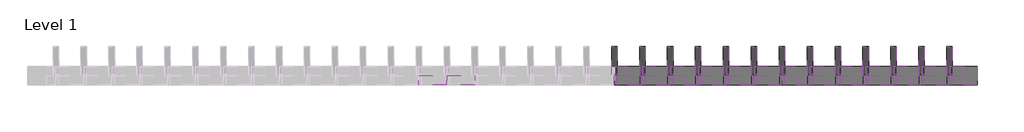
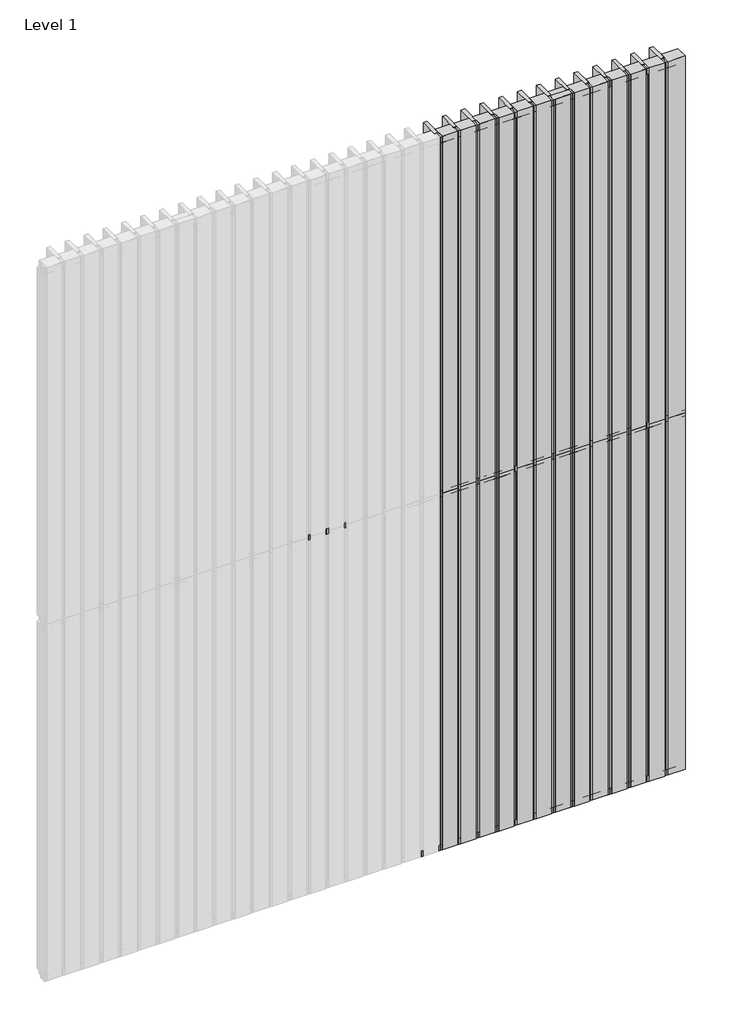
# One storey, part 3 of 3: 68 members, 52 plates.
"""IFC4 building model written with IfcOpenShell, lengths in millimetres."""

from ifc_helpers import new_model, si_unit, origin, place, context, project, spatial, transform, mapped, element, save
from components import rectangular_mullion_4e9be6f4, rectangular_mullion_64cc6fdd, rectangular_mullion_6265e8b1, rectangular_mullion_eb4a5411, empty_system_panel_empty_a223c933, empty_system_panel_empty_cb8e8c2e, empty_system_panel_empty_64907904

model = new_model("IFC4")

# Units and contexts
model_context = context("Model", 3, world=origin())
ifc_project = project(units=[si_unit("LENGTHUNIT", "METRE", prefix="MILLI")], contexts=[model_context])

# Site, building, storey
site = spatial("IfcSite", under=ifc_project)
building = spatial("IfcBuilding", under=site)
storey = spatial("IfcBuildingStorey", under=building, Name="Level 1", Elevation=0.0)

# Members
placement = place(None, origin())
rectangular_mullion_shape = rectangular_mullion_4e9be6f4(model_context)
element("IfcMember", 1, ObjectType="Rectangular Mullion : RSen_21_CWM_blade - cubic 150 - 0°_gen_duco projects", at=placement, inside=storey, context=model_context, shape_type="MappedRepresentation", body=[
    mapped(rectangular_mullion_shape, transform((5850.0, 3000.0, 0.0), x_axis=(-1.0, 0.0, 0.0), y_axis=(0.0, 1.0, 0.0), z_axis=(0.0, 0.0, -1.0))),
])
element("IfcMember", 2, ObjectType="Rectangular Mullion : RSen_21_CWM_blade - cubic 150 - 0°_gen_duco projects", at=placement, inside=storey, context=model_context, shape_type="MappedRepresentation", body=[
    mapped(rectangular_mullion_shape, transform((5700.0, 3000.0, 0.0), x_axis=(-1.0, 0.0, 0.0), y_axis=(0.0, 1.0, 0.0), z_axis=(0.0, 0.0, -1.0))),
])
element("IfcMember", 3, ObjectType="Rectangular Mullion : RSen_21_CWM_blade - cubic 150 - 0°_gen_duco projects", at=placement, inside=storey, context=model_context, shape_type="MappedRepresentation", body=[
    mapped(rectangular_mullion_shape, transform((5550.0, 3000.0, 0.0), x_axis=(-1.0, 0.0, 0.0), y_axis=(0.0, 1.0, 0.0), z_axis=(0.0, 0.0, -1.0))),
])
element("IfcMember", 4, ObjectType="Rectangular Mullion : RSen_21_CWM_blade - cubic 150 - 0°_gen_duco projects", at=placement, inside=storey, context=model_context, shape_type="MappedRepresentation", body=[
    mapped(rectangular_mullion_shape, transform((5400.0, 3000.0, 0.0), x_axis=(-1.0, 0.0, 0.0), y_axis=(0.0, 1.0, 0.0), z_axis=(0.0, 0.0, -1.0))),
])
element("IfcMember", 5, ObjectType="Rectangular Mullion : RSen_21_CWM_blade - cubic 150 - 0°_gen_duco projects", at=placement, inside=storey, context=model_context, shape_type="MappedRepresentation", body=[
    mapped(rectangular_mullion_shape, transform((5250.0, 3000.0, 0.0), x_axis=(-1.0, 0.0, 0.0), y_axis=(0.0, 1.0, 0.0), z_axis=(0.0, 0.0, -1.0))),
])
element("IfcMember", 6, ObjectType="Rectangular Mullion : RSen_21_CWM_blade - cubic 150 - 0°_gen_duco projects", at=placement, inside=storey, context=model_context, shape_type="MappedRepresentation", body=[
    mapped(rectangular_mullion_shape, transform((5100.0, 3000.0, 0.0), x_axis=(-1.0, 0.0, 0.0), y_axis=(0.0, 1.0, 0.0), z_axis=(0.0, 0.0, -1.0))),
])
element("IfcMember", 7, ObjectType="Rectangular Mullion : RSen_21_CWM_blade - cubic 150 - 0°_gen_duco projects", at=placement, inside=storey, context=model_context, shape_type="MappedRepresentation", body=[
    mapped(rectangular_mullion_shape, transform((4950.0, 3000.0, 0.0), x_axis=(-1.0, 0.0, 0.0), y_axis=(0.0, 1.0, 0.0), z_axis=(0.0, 0.0, -1.0))),
])
element("IfcMember", 8, ObjectType="Rectangular Mullion : RSen_21_CWM_blade - cubic 150 - 0°_gen_duco projects", at=placement, inside=storey, context=model_context, shape_type="MappedRepresentation", body=[
    mapped(rectangular_mullion_shape, transform((4800.0, 3000.0, 0.0), x_axis=(-1.0, 0.0, 0.0), y_axis=(0.0, 1.0, 0.0), z_axis=(0.0, 0.0, -1.0))),
])
element("IfcMember", 9, ObjectType="Rectangular Mullion : RSen_21_CWM_blade - cubic 150 - 0°_gen_duco projects", at=placement, inside=storey, context=model_context, shape_type="MappedRepresentation", body=[
    mapped(rectangular_mullion_shape, transform((4650.0, 3000.0, 0.0), x_axis=(-1.0, 0.0, 0.0), y_axis=(0.0, 1.0, 0.0), z_axis=(0.0, 0.0, -1.0))),
])
element("IfcMember", 10, ObjectType="Rectangular Mullion : RSen_21_CWM_blade - cubic 150 - 0°_gen_duco projects", at=placement, inside=storey, context=model_context, shape_type="MappedRepresentation", body=[
    mapped(rectangular_mullion_shape, transform((4500.0, 3000.0, 0.0), x_axis=(-1.0, 0.0, 0.0), y_axis=(0.0, 1.0, 0.0), z_axis=(0.0, 0.0, -1.0))),
])
element("IfcMember", 11, ObjectType="Rectangular Mullion : RSen_21_CWM_blade - cubic 150 - 0°_gen_duco projects", at=placement, inside=storey, context=model_context, shape_type="MappedRepresentation", body=[
    mapped(rectangular_mullion_shape, transform((4350.0, 3000.0, 0.0), x_axis=(-1.0, 0.0, 0.0), y_axis=(0.0, 1.0, 0.0), z_axis=(0.0, 0.0, -1.0))),
])
element("IfcMember", 12, ObjectType="Rectangular Mullion : RSen_21_CWM_blade - cubic 150 - 0°_gen_duco projects", at=placement, inside=storey, context=model_context, shape_type="MappedRepresentation", body=[
    mapped(rectangular_mullion_shape, transform((4200.0, 3000.0, 0.0), x_axis=(-1.0, 0.0, 0.0), y_axis=(0.0, 1.0, 0.0), z_axis=(0.0, 0.0, -1.0))),
])
element("IfcMember", 13, ObjectType="Rectangular Mullion : RSen_21_CWM_blade - cubic 150 - 0°_gen_duco projects", at=placement, inside=storey, context=model_context, shape_type="MappedRepresentation", body=[
    mapped(rectangular_mullion_shape, transform((4050.0, 3000.0, 0.0), x_axis=(-1.0, 0.0, 0.0), y_axis=(0.0, 1.0, 0.0), z_axis=(0.0, 0.0, -1.0))),
])
element("IfcMember", 14, ObjectType="Rectangular Mullion : RSen_21_CWM_blade - cubic 150 - 0°_gen_duco projects", at=placement, inside=storey, context=model_context, shape_type="MappedRepresentation", body=[
    mapped(rectangular_mullion_shape, transform((5850.0, 3000.0, 3000.0), x_axis=(-1.0, 0.0, 0.0), y_axis=(0.0, 1.0, 0.0), z_axis=(0.0, 0.0, -1.0))),
])
element("IfcMember", 15, ObjectType="Rectangular Mullion : RSen_21_CWM_blade - cubic 150 - 0°_gen_duco projects", at=placement, inside=storey, context=model_context, shape_type="MappedRepresentation", body=[
    mapped(rectangular_mullion_shape, transform((5700.0, 3000.0, 3000.0), x_axis=(-1.0, 0.0, 0.0), y_axis=(0.0, 1.0, 0.0), z_axis=(0.0, 0.0, -1.0))),
])
element("IfcMember", 16, ObjectType="Rectangular Mullion : RSen_21_CWM_blade - cubic 150 - 0°_gen_duco projects", at=placement, inside=storey, context=model_context, shape_type="MappedRepresentation", body=[
    mapped(rectangular_mullion_shape, transform((5550.0, 3000.0, 3000.0), x_axis=(-1.0, 0.0, 0.0), y_axis=(0.0, 1.0, 0.0), z_axis=(0.0, 0.0, -1.0))),
])
element("IfcMember", 17, ObjectType="Rectangular Mullion : RSen_21_CWM_blade - cubic 150 - 0°_gen_duco projects", at=placement, inside=storey, context=model_context, shape_type="MappedRepresentation", body=[
    mapped(rectangular_mullion_shape, transform((5400.0, 3000.0, 3000.0), x_axis=(-1.0, 0.0, 0.0), y_axis=(0.0, 1.0, 0.0), z_axis=(0.0, 0.0, -1.0))),
])
element("IfcMember", 18, ObjectType="Rectangular Mullion : RSen_21_CWM_blade - cubic 150 - 0°_gen_duco projects", at=placement, inside=storey, context=model_context, shape_type="MappedRepresentation", body=[
    mapped(rectangular_mullion_shape, transform((5250.0, 3000.0, 3000.0), x_axis=(-1.0, 0.0, 0.0), y_axis=(0.0, 1.0, 0.0), z_axis=(0.0, 0.0, -1.0))),
])
element("IfcMember", 19, ObjectType="Rectangular Mullion : RSen_21_CWM_blade - cubic 150 - 0°_gen_duco projects", at=placement, inside=storey, context=model_context, shape_type="MappedRepresentation", body=[
    mapped(rectangular_mullion_shape, transform((5100.0, 3000.0, 3000.0), x_axis=(-1.0, 0.0, 0.0), y_axis=(0.0, 1.0, 0.0), z_axis=(0.0, 0.0, -1.0))),
])
element("IfcMember", 20, ObjectType="Rectangular Mullion : RSen_21_CWM_blade - cubic 150 - 0°_gen_duco projects", at=placement, inside=storey, context=model_context, shape_type="MappedRepresentation", body=[
    mapped(rectangular_mullion_shape, transform((4950.0, 3000.0, 3000.0), x_axis=(-1.0, 0.0, 0.0), y_axis=(0.0, 1.0, 0.0), z_axis=(0.0, 0.0, -1.0))),
])
element("IfcMember", 21, ObjectType="Rectangular Mullion : RSen_21_CWM_blade - cubic 150 - 0°_gen_duco projects", at=placement, inside=storey, context=model_context, shape_type="MappedRepresentation", body=[
    mapped(rectangular_mullion_shape, transform((4800.0, 3000.0, 3000.0), x_axis=(-1.0, 0.0, 0.0), y_axis=(0.0, 1.0, 0.0), z_axis=(0.0, 0.0, -1.0))),
])
element("IfcMember", 22, ObjectType="Rectangular Mullion : RSen_21_CWM_blade - cubic 150 - 0°_gen_duco projects", at=placement, inside=storey, context=model_context, shape_type="MappedRepresentation", body=[
    mapped(rectangular_mullion_shape, transform((4650.0, 3000.0, 3000.0), x_axis=(-1.0, 0.0, 0.0), y_axis=(0.0, 1.0, 0.0), z_axis=(0.0, 0.0, -1.0))),
])
element("IfcMember", 23, ObjectType="Rectangular Mullion : RSen_21_CWM_blade - cubic 150 - 0°_gen_duco projects", at=placement, inside=storey, context=model_context, shape_type="MappedRepresentation", body=[
    mapped(rectangular_mullion_shape, transform((4500.0, 3000.0, 3000.0), x_axis=(-1.0, 0.0, 0.0), y_axis=(0.0, 1.0, 0.0), z_axis=(0.0, 0.0, -1.0))),
])
element("IfcMember", 24, ObjectType="Rectangular Mullion : RSen_21_CWM_blade - cubic 150 - 0°_gen_duco projects", at=placement, inside=storey, context=model_context, shape_type="MappedRepresentation", body=[
    mapped(rectangular_mullion_shape, transform((4350.0, 3000.0, 3000.0), x_axis=(-1.0, 0.0, 0.0), y_axis=(0.0, 1.0, 0.0), z_axis=(0.0, 0.0, -1.0))),
])
element("IfcMember", 25, ObjectType="Rectangular Mullion : RSen_21_CWM_blade - cubic 150 - 0°_gen_duco projects", at=placement, inside=storey, context=model_context, shape_type="MappedRepresentation", body=[
    mapped(rectangular_mullion_shape, transform((4200.0, 3000.0, 3000.0), x_axis=(-1.0, 0.0, 0.0), y_axis=(0.0, 1.0, 0.0), z_axis=(0.0, 0.0, -1.0))),
])
element("IfcMember", 26, ObjectType="Rectangular Mullion : RSen_21_CWM_blade - cubic 150 - 0°_gen_duco projects", at=placement, inside=storey, context=model_context, shape_type="MappedRepresentation", body=[
    mapped(rectangular_mullion_shape, transform((4050.0, 3000.0, 3000.0), x_axis=(-1.0, 0.0, 0.0), y_axis=(0.0, 1.0, 0.0), z_axis=(0.0, 0.0, -1.0))),
])
rectangular_mullion_2_shape = rectangular_mullion_64cc6fdd(model_context)
element("IfcMember", 27, ObjectType="Rectangular Mullion : RSen_21_CWM_support profile 50x50 - right_gen_duco projects", at=placement, inside=storey, context=model_context, shape_type="MappedRepresentation", body=[
    mapped(rectangular_mullion_2_shape, transform((6000.0, 3000.0, 0.0), x_axis=(0.0, 0.0, -1.0), y_axis=(0.0, 1.0, 0.0), z_axis=(1.0, 0.0, 0.0))),
])
rectangular_mullion_3_shape = rectangular_mullion_6265e8b1(model_context)
element("IfcMember", 28, ObjectType="Rectangular Mullion : RSen_21_CWM_support profile 50x50 - left_gen_duco projects", at=placement, inside=storey, context=model_context, shape_type="MappedRepresentation", body=[
    mapped(rectangular_mullion_3_shape, transform((5850.0, 3000.0, 6000.0), x_axis=(0.0, 0.0, 1.0), y_axis=(0.0, 1.0, 0.0), z_axis=(-1.0, 0.0, 0.0))),
])
element("IfcMember", 29, ObjectType="Rectangular Mullion : RSen_21_CWM_support profile 50x50 - left_gen_duco projects", at=placement, inside=storey, context=model_context, shape_type="MappedRepresentation", body=[
    mapped(rectangular_mullion_3_shape, transform((5700.0, 3000.0, 6000.0), x_axis=(0.0, 0.0, 1.0), y_axis=(0.0, 1.0, 0.0), z_axis=(-1.0, 0.0, 0.0))),
])
element("IfcMember", 30, ObjectType="Rectangular Mullion : RSen_21_CWM_support profile 50x50 - left_gen_duco projects", at=placement, inside=storey, context=model_context, shape_type="MappedRepresentation", body=[
    mapped(rectangular_mullion_3_shape, transform((5550.0, 3000.0, 6000.0), x_axis=(0.0, 0.0, 1.0), y_axis=(0.0, 1.0, 0.0), z_axis=(-1.0, 0.0, 0.0))),
])
element("IfcMember", 31, ObjectType="Rectangular Mullion : RSen_21_CWM_support profile 50x50 - left_gen_duco projects", at=placement, inside=storey, context=model_context, shape_type="MappedRepresentation", body=[
    mapped(rectangular_mullion_3_shape, transform((5400.0, 3000.0, 6000.0), x_axis=(0.0, 0.0, 1.0), y_axis=(0.0, 1.0, 0.0), z_axis=(-1.0, 0.0, 0.0))),
])
element("IfcMember", 32, ObjectType="Rectangular Mullion : RSen_21_CWM_support profile 50x50 - left_gen_duco projects", at=placement, inside=storey, context=model_context, shape_type="MappedRepresentation", body=[
    mapped(rectangular_mullion_3_shape, transform((5250.0, 3000.0, 6000.0), x_axis=(0.0, 0.0, 1.0), y_axis=(0.0, 1.0, 0.0), z_axis=(-1.0, 0.0, 0.0))),
])
element("IfcMember", 33, ObjectType="Rectangular Mullion : RSen_21_CWM_support profile 50x50 - left_gen_duco projects", at=placement, inside=storey, context=model_context, shape_type="MappedRepresentation", body=[
    mapped(rectangular_mullion_3_shape, transform((5100.0, 3000.0, 6000.0), x_axis=(0.0, 0.0, 1.0), y_axis=(0.0, 1.0, 0.0), z_axis=(-1.0, 0.0, 0.0))),
])
element("IfcMember", 34, ObjectType="Rectangular Mullion : RSen_21_CWM_support profile 50x50 - left_gen_duco projects", at=placement, inside=storey, context=model_context, shape_type="MappedRepresentation", body=[
    mapped(rectangular_mullion_3_shape, transform((4950.0, 3000.0, 6000.0), x_axis=(0.0, 0.0, 1.0), y_axis=(0.0, 1.0, 0.0), z_axis=(-1.0, 0.0, 0.0))),
])
element("IfcMember", 35, ObjectType="Rectangular Mullion : RSen_21_CWM_support profile 50x50 - left_gen_duco projects", at=placement, inside=storey, context=model_context, shape_type="MappedRepresentation", body=[
    mapped(rectangular_mullion_3_shape, transform((4800.0, 3000.0, 6000.0), x_axis=(0.0, 0.0, 1.0), y_axis=(0.0, 1.0, 0.0), z_axis=(-1.0, 0.0, 0.0))),
])
element("IfcMember", 36, ObjectType="Rectangular Mullion : RSen_21_CWM_support profile 50x50 - left_gen_duco projects", at=placement, inside=storey, context=model_context, shape_type="MappedRepresentation", body=[
    mapped(rectangular_mullion_3_shape, transform((4650.0, 3000.0, 6000.0), x_axis=(0.0, 0.0, 1.0), y_axis=(0.0, 1.0, 0.0), z_axis=(-1.0, 0.0, 0.0))),
])
element("IfcMember", 37, ObjectType="Rectangular Mullion : RSen_21_CWM_support profile 50x50 - left_gen_duco projects", at=placement, inside=storey, context=model_context, shape_type="MappedRepresentation", body=[
    mapped(rectangular_mullion_3_shape, transform((4500.0, 3000.0, 6000.0), x_axis=(0.0, 0.0, 1.0), y_axis=(0.0, 1.0, 0.0), z_axis=(-1.0, 0.0, 0.0))),
])
element("IfcMember", 38, ObjectType="Rectangular Mullion : RSen_21_CWM_support profile 50x50 - left_gen_duco projects", at=placement, inside=storey, context=model_context, shape_type="MappedRepresentation", body=[
    mapped(rectangular_mullion_3_shape, transform((4350.0, 3000.0, 6000.0), x_axis=(0.0, 0.0, 1.0), y_axis=(0.0, 1.0, 0.0), z_axis=(-1.0, 0.0, 0.0))),
])
element("IfcMember", 39, ObjectType="Rectangular Mullion : RSen_21_CWM_support profile 50x50 - left_gen_duco projects", at=placement, inside=storey, context=model_context, shape_type="MappedRepresentation", body=[
    mapped(rectangular_mullion_3_shape, transform((4200.0, 3000.0, 6000.0), x_axis=(0.0, 0.0, 1.0), y_axis=(0.0, 1.0, 0.0), z_axis=(-1.0, 0.0, 0.0))),
])
element("IfcMember", 40, ObjectType="Rectangular Mullion : RSen_21_CWM_support profile 50x50 - left_gen_duco projects", at=placement, inside=storey, context=model_context, shape_type="MappedRepresentation", body=[
    mapped(rectangular_mullion_3_shape, transform((4050.0, 3000.0, 6000.0), x_axis=(0.0, 0.0, 1.0), y_axis=(0.0, 1.0, 0.0), z_axis=(-1.0, 0.0, 0.0))),
])
element("IfcMember", 41, ObjectType="Rectangular Mullion : RSen_21_CWM_support profile 50x50 - right_gen_duco projects", at=placement, inside=storey, context=model_context, shape_type="MappedRepresentation", body=[
    mapped(rectangular_mullion_2_shape, transform((5850.0, 3000.0, 0.0), x_axis=(0.0, 0.0, -1.0), y_axis=(0.0, 1.0, 0.0), z_axis=(1.0, 0.0, 0.0))),
])
element("IfcMember", 42, ObjectType="Rectangular Mullion : RSen_21_CWM_support profile 50x50 - right_gen_duco projects", at=placement, inside=storey, context=model_context, shape_type="MappedRepresentation", body=[
    mapped(rectangular_mullion_2_shape, transform((5700.0, 3000.0, 0.0), x_axis=(0.0, 0.0, -1.0), y_axis=(0.0, 1.0, 0.0), z_axis=(1.0, 0.0, 0.0))),
])
element("IfcMember", 43, ObjectType="Rectangular Mullion : RSen_21_CWM_support profile 50x50 - right_gen_duco projects", at=placement, inside=storey, context=model_context, shape_type="MappedRepresentation", body=[
    mapped(rectangular_mullion_2_shape, transform((5550.0, 3000.0, 0.0), x_axis=(0.0, 0.0, -1.0), y_axis=(0.0, 1.0, 0.0), z_axis=(1.0, 0.0, 0.0))),
])
element("IfcMember", 44, ObjectType="Rectangular Mullion : RSen_21_CWM_support profile 50x50 - right_gen_duco projects", at=placement, inside=storey, context=model_context, shape_type="MappedRepresentation", body=[
    mapped(rectangular_mullion_2_shape, transform((5400.0, 3000.0, 0.0), x_axis=(0.0, 0.0, -1.0), y_axis=(0.0, 1.0, 0.0), z_axis=(1.0, 0.0, 0.0))),
])
element("IfcMember", 45, ObjectType="Rectangular Mullion : RSen_21_CWM_support profile 50x50 - right_gen_duco projects", at=placement, inside=storey, context=model_context, shape_type="MappedRepresentation", body=[
    mapped(rectangular_mullion_2_shape, transform((5250.0, 3000.0, 0.0), x_axis=(0.0, 0.0, -1.0), y_axis=(0.0, 1.0, 0.0), z_axis=(1.0, 0.0, 0.0))),
])
element("IfcMember", 46, ObjectType="Rectangular Mullion : RSen_21_CWM_support profile 50x50 - right_gen_duco projects", at=placement, inside=storey, context=model_context, shape_type="MappedRepresentation", body=[
    mapped(rectangular_mullion_2_shape, transform((5100.0, 3000.0, 0.0), x_axis=(0.0, 0.0, -1.0), y_axis=(0.0, 1.0, 0.0), z_axis=(1.0, 0.0, 0.0))),
])
element("IfcMember", 47, ObjectType="Rectangular Mullion : RSen_21_CWM_support profile 50x50 - right_gen_duco projects", at=placement, inside=storey, context=model_context, shape_type="MappedRepresentation", body=[
    mapped(rectangular_mullion_2_shape, transform((4950.0, 3000.0, 0.0), x_axis=(0.0, 0.0, -1.0), y_axis=(0.0, 1.0, 0.0), z_axis=(1.0, 0.0, 0.0))),
])
element("IfcMember", 48, ObjectType="Rectangular Mullion : RSen_21_CWM_support profile 50x50 - right_gen_duco projects", at=placement, inside=storey, context=model_context, shape_type="MappedRepresentation", body=[
    mapped(rectangular_mullion_2_shape, transform((4800.0, 3000.0, 0.0), x_axis=(0.0, 0.0, -1.0), y_axis=(0.0, 1.0, 0.0), z_axis=(1.0, 0.0, 0.0))),
])
element("IfcMember", 49, ObjectType="Rectangular Mullion : RSen_21_CWM_support profile 50x50 - right_gen_duco projects", at=placement, inside=storey, context=model_context, shape_type="MappedRepresentation", body=[
    mapped(rectangular_mullion_2_shape, transform((4650.0, 3000.0, 0.0), x_axis=(0.0, 0.0, -1.0), y_axis=(0.0, 1.0, 0.0), z_axis=(1.0, 0.0, 0.0))),
])
element("IfcMember", 50, ObjectType="Rectangular Mullion : RSen_21_CWM_support profile 50x50 - right_gen_duco projects", at=placement, inside=storey, context=model_context, shape_type="MappedRepresentation", body=[
    mapped(rectangular_mullion_2_shape, transform((4500.0, 3000.0, 0.0), x_axis=(0.0, 0.0, -1.0), y_axis=(0.0, 1.0, 0.0), z_axis=(1.0, 0.0, 0.0))),
])
element("IfcMember", 51, ObjectType="Rectangular Mullion : RSen_21_CWM_support profile 50x50 - right_gen_duco projects", at=placement, inside=storey, context=model_context, shape_type="MappedRepresentation", body=[
    mapped(rectangular_mullion_2_shape, transform((4350.0, 3000.0, 0.0), x_axis=(0.0, 0.0, -1.0), y_axis=(0.0, 1.0, 0.0), z_axis=(1.0, 0.0, 0.0))),
])
element("IfcMember", 52, ObjectType="Rectangular Mullion : RSen_21_CWM_support profile 50x50 - right_gen_duco projects", at=placement, inside=storey, context=model_context, shape_type="MappedRepresentation", body=[
    mapped(rectangular_mullion_2_shape, transform((4200.0, 3000.0, 0.0), x_axis=(0.0, 0.0, -1.0), y_axis=(0.0, 1.0, 0.0), z_axis=(1.0, 0.0, 0.0))),
])
element("IfcMember", 53, ObjectType="Rectangular Mullion : RSen_21_CWM_support profile 50x50 - right_gen_duco projects", at=placement, inside=storey, context=model_context, shape_type="MappedRepresentation", body=[
    mapped(rectangular_mullion_2_shape, transform((4050.0, 3000.0, 0.0), x_axis=(0.0, 0.0, -1.0), y_axis=(0.0, 1.0, 0.0), z_axis=(1.0, 0.0, 0.0))),
])
rectangular_mullion_4_shape = rectangular_mullion_eb4a5411(model_context)
element("IfcMember", 54, ObjectType="Rectangular Mullion : RSen_21_CWM_support profile 50x50_gen_duco projects", at=placement, inside=storey, context=model_context, shape_type="MappedRepresentation", body=[
    mapped(rectangular_mullion_4_shape, transform((5850.0, 3000.0, 3000.0), x_axis=(0.0, 0.0, 1.0), y_axis=(0.0, 1.0, 0.0), z_axis=(-1.0, 0.0, 0.0))),
])
element("IfcMember", 55, ObjectType="Rectangular Mullion : RSen_21_CWM_support profile 50x50_gen_duco projects", at=placement, inside=storey, context=model_context, shape_type="MappedRepresentation", body=[
    mapped(rectangular_mullion_4_shape, transform((5700.0, 3000.0, 3000.0), x_axis=(0.0, 0.0, 1.0), y_axis=(0.0, 1.0, 0.0), z_axis=(-1.0, 0.0, 0.0))),
])
element("IfcMember", 56, ObjectType="Rectangular Mullion : RSen_21_CWM_support profile 50x50_gen_duco projects", at=placement, inside=storey, context=model_context, shape_type="MappedRepresentation", body=[
    mapped(rectangular_mullion_4_shape, transform((5550.0, 3000.0, 3000.0), x_axis=(0.0, 0.0, 1.0), y_axis=(0.0, 1.0, 0.0), z_axis=(-1.0, 0.0, 0.0))),
])
element("IfcMember", 57, ObjectType="Rectangular Mullion : RSen_21_CWM_support profile 50x50_gen_duco projects", at=placement, inside=storey, context=model_context, shape_type="MappedRepresentation", body=[
    mapped(rectangular_mullion_4_shape, transform((5400.0, 3000.0, 3000.0), x_axis=(0.0, 0.0, 1.0), y_axis=(0.0, 1.0, 0.0), z_axis=(-1.0, 0.0, 0.0))),
])
element("IfcMember", 58, ObjectType="Rectangular Mullion : RSen_21_CWM_support profile 50x50_gen_duco projects", at=placement, inside=storey, context=model_context, shape_type="MappedRepresentation", body=[
    mapped(rectangular_mullion_4_shape, transform((5250.0, 3000.0, 3000.0), x_axis=(0.0, 0.0, 1.0), y_axis=(0.0, 1.0, 0.0), z_axis=(-1.0, 0.0, 0.0))),
])
element("IfcMember", 59, ObjectType="Rectangular Mullion : RSen_21_CWM_support profile 50x50_gen_duco projects", at=placement, inside=storey, context=model_context, shape_type="MappedRepresentation", body=[
    mapped(rectangular_mullion_4_shape, transform((5100.0, 3000.0, 3000.0), x_axis=(0.0, 0.0, 1.0), y_axis=(0.0, 1.0, 0.0), z_axis=(-1.0, 0.0, 0.0))),
])
element("IfcMember", 60, ObjectType="Rectangular Mullion : RSen_21_CWM_support profile 50x50_gen_duco projects", at=placement, inside=storey, context=model_context, shape_type="MappedRepresentation", body=[
    mapped(rectangular_mullion_4_shape, transform((4950.0, 3000.0, 3000.0), x_axis=(0.0, 0.0, 1.0), y_axis=(0.0, 1.0, 0.0), z_axis=(-1.0, 0.0, 0.0))),
])
element("IfcMember", 61, ObjectType="Rectangular Mullion : RSen_21_CWM_support profile 50x50_gen_duco projects", at=placement, inside=storey, context=model_context, shape_type="MappedRepresentation", body=[
    mapped(rectangular_mullion_4_shape, transform((4800.0, 3000.0, 3000.0), x_axis=(0.0, 0.0, 1.0), y_axis=(0.0, 1.0, 0.0), z_axis=(-1.0, 0.0, 0.0))),
])
element("IfcMember", 62, ObjectType="Rectangular Mullion : RSen_21_CWM_support profile 50x50_gen_duco projects", at=placement, inside=storey, context=model_context, shape_type="MappedRepresentation", body=[
    mapped(rectangular_mullion_4_shape, transform((4650.0, 3000.0, 3000.0), x_axis=(0.0, 0.0, 1.0), y_axis=(0.0, 1.0, 0.0), z_axis=(-1.0, 0.0, 0.0))),
])
element("IfcMember", 63, ObjectType="Rectangular Mullion : RSen_21_CWM_support profile 50x50_gen_duco projects", at=placement, inside=storey, context=model_context, shape_type="MappedRepresentation", body=[
    mapped(rectangular_mullion_4_shape, transform((4500.0, 3000.0, 3000.0), x_axis=(0.0, 0.0, 1.0), y_axis=(0.0, 1.0, 0.0), z_axis=(-1.0, 0.0, 0.0))),
])
element("IfcMember", 64, ObjectType="Rectangular Mullion : RSen_21_CWM_support profile 50x50_gen_duco projects", at=placement, inside=storey, context=model_context, shape_type="MappedRepresentation", body=[
    mapped(rectangular_mullion_4_shape, transform((4350.0, 3000.0, 3000.0), x_axis=(0.0, 0.0, 1.0), y_axis=(0.0, 1.0, 0.0), z_axis=(-1.0, 0.0, 0.0))),
])
element("IfcMember", 65, ObjectType="Rectangular Mullion : RSen_21_CWM_support profile 50x50_gen_duco projects", at=placement, inside=storey, context=model_context, shape_type="MappedRepresentation", body=[
    mapped(rectangular_mullion_4_shape, transform((4200.0, 3000.0, 3000.0), x_axis=(0.0, 0.0, 1.0), y_axis=(0.0, 1.0, 0.0), z_axis=(-1.0, 0.0, 0.0))),
])
element("IfcMember", 66, ObjectType="Rectangular Mullion : RSen_21_CWM_support profile 50x50_gen_duco projects", at=placement, inside=storey, context=model_context, shape_type="MappedRepresentation", body=[
    mapped(rectangular_mullion_4_shape, transform((4050.0, 3000.0, 3000.0), x_axis=(0.0, 0.0, 1.0), y_axis=(0.0, 1.0, 0.0), z_axis=(-1.0, 0.0, 0.0))),
])
element("IfcMember", 67, ObjectType="Rectangular Mullion : RSen_21_CWM_support profile 50x50_gen_duco projects", at=placement, inside=storey, context=model_context, shape_type="MappedRepresentation", body=[
    mapped(rectangular_mullion_4_shape, transform((3150.0, 3000.0, 3000.0), x_axis=(0.0, 0.0, 1.0), y_axis=(0.0, 1.0, 0.0), z_axis=(-1.0, 0.0, 0.0))),
])
element("IfcMember", 68, ObjectType="Rectangular Mullion : RSen_21_CWM_support profile 50x50_gen_duco projects", at=placement, inside=storey, context=model_context, shape_type="MappedRepresentation", body=[
    mapped(rectangular_mullion_4_shape, transform((3000.0, 3000.0, 3000.0), x_axis=(0.0, 0.0, 1.0), y_axis=(0.0, 1.0, 0.0), z_axis=(-1.0, 0.0, 0.0))),
])

# Plates
empty_system_panel_empty_shape = empty_system_panel_empty_a223c933(model_context)
element("IfcPlate", 69, ObjectType="Empty System Panel : Empty", at=placement, inside=storey, context=model_context, shape_type="MappedRepresentation", body=[
    mapped(empty_system_panel_empty_shape, transform((5932.5, 3000.0, 0.0), x_axis=(-1.0, 0.0, 0.0), y_axis=(0.0, -1.0, 0.0), z_axis=(0.0, 0.0, 1.0))),
])
element("IfcPlate", 70, ObjectType="Empty System Panel : Empty", at=placement, inside=storey, context=model_context, shape_type="MappedRepresentation", body=[
    mapped(empty_system_panel_empty_shape, transform((5932.5, 3000.0, 3000.0), x_axis=(-1.0, 0.0, 0.0), y_axis=(0.0, -1.0, 0.0), z_axis=(0.0, 0.0, 1.0))),
])
empty_system_panel_empty_2_shape = empty_system_panel_empty_cb8e8c2e(model_context)
element("IfcPlate", 71, ObjectType="Empty System Panel : Empty", at=placement, inside=storey, context=model_context, shape_type="MappedRepresentation", body=[
    mapped(empty_system_panel_empty_2_shape, transform((5775.0, 3000.0, 0.0), x_axis=(-1.0, 0.0, 0.0), y_axis=(0.0, -1.0, 0.0), z_axis=(0.0, 0.0, 1.0))),
])
element("IfcPlate", 72, ObjectType="Empty System Panel : Empty", at=placement, inside=storey, context=model_context, shape_type="MappedRepresentation", body=[
    mapped(empty_system_panel_empty_2_shape, transform((5625.0, 3000.0, 0.0), x_axis=(-1.0, 0.0, 0.0), y_axis=(0.0, -1.0, 0.0), z_axis=(0.0, 0.0, 1.0))),
])
element("IfcPlate", 73, ObjectType="Empty System Panel : Empty", at=placement, inside=storey, context=model_context, shape_type="MappedRepresentation", body=[
    mapped(empty_system_panel_empty_2_shape, transform((5475.0, 3000.0, 0.0), x_axis=(-1.0, 0.0, 0.0), y_axis=(0.0, -1.0, 0.0), z_axis=(0.0, 0.0, 1.0))),
])
element("IfcPlate", 74, ObjectType="Empty System Panel : Empty", at=placement, inside=storey, context=model_context, shape_type="MappedRepresentation", body=[
    mapped(empty_system_panel_empty_2_shape, transform((5325.0, 3000.0, 0.0), x_axis=(-1.0, 0.0, 0.0), y_axis=(0.0, -1.0, 0.0), z_axis=(0.0, 0.0, 1.0))),
])
element("IfcPlate", 75, ObjectType="Empty System Panel : Empty", at=placement, inside=storey, context=model_context, shape_type="MappedRepresentation", body=[
    mapped(empty_system_panel_empty_2_shape, transform((5175.0, 3000.0, 0.0), x_axis=(-1.0, 0.0, 0.0), y_axis=(0.0, -1.0, 0.0), z_axis=(0.0, 0.0, 1.0))),
])
element("IfcPlate", 76, ObjectType="Empty System Panel : Empty", at=placement, inside=storey, context=model_context, shape_type="MappedRepresentation", body=[
    mapped(empty_system_panel_empty_2_shape, transform((5025.0, 3000.0, 0.0), x_axis=(-1.0, 0.0, 0.0), y_axis=(0.0, -1.0, 0.0), z_axis=(0.0, 0.0, 1.0))),
])
element("IfcPlate", 77, ObjectType="Empty System Panel : Empty", at=placement, inside=storey, context=model_context, shape_type="MappedRepresentation", body=[
    mapped(empty_system_panel_empty_2_shape, transform((4875.0, 3000.0, 0.0), x_axis=(-1.0, 0.0, 0.0), y_axis=(0.0, -1.0, 0.0), z_axis=(0.0, 0.0, 1.0))),
])
element("IfcPlate", 78, ObjectType="Empty System Panel : Empty", at=placement, inside=storey, context=model_context, shape_type="MappedRepresentation", body=[
    mapped(empty_system_panel_empty_2_shape, transform((4725.0, 3000.0, 0.0), x_axis=(-1.0, 0.0, 0.0), y_axis=(0.0, -1.0, 0.0), z_axis=(0.0, 0.0, 1.0))),
])
element("IfcPlate", 79, ObjectType="Empty System Panel : Empty", at=placement, inside=storey, context=model_context, shape_type="MappedRepresentation", body=[
    mapped(empty_system_panel_empty_2_shape, transform((4575.0, 3000.0, 0.0), x_axis=(-1.0, 0.0, 0.0), y_axis=(0.0, -1.0, 0.0), z_axis=(0.0, 0.0, 1.0))),
])
element("IfcPlate", 80, ObjectType="Empty System Panel : Empty", at=placement, inside=storey, context=model_context, shape_type="MappedRepresentation", body=[
    mapped(empty_system_panel_empty_2_shape, transform((4425.0, 3000.0, 0.0), x_axis=(-1.0, 0.0, 0.0), y_axis=(0.0, -1.0, 0.0), z_axis=(0.0, 0.0, 1.0))),
])
element("IfcPlate", 81, ObjectType="Empty System Panel : Empty", at=placement, inside=storey, context=model_context, shape_type="MappedRepresentation", body=[
    mapped(empty_system_panel_empty_2_shape, transform((4275.0, 3000.0, 0.0), x_axis=(-1.0, 0.0, 0.0), y_axis=(0.0, -1.0, 0.0), z_axis=(0.0, 0.0, 1.0))),
])
element("IfcPlate", 82, ObjectType="Empty System Panel : Empty", at=placement, inside=storey, context=model_context, shape_type="MappedRepresentation", body=[
    mapped(empty_system_panel_empty_2_shape, transform((4125.0, 3000.0, 0.0), x_axis=(-1.0, 0.0, 0.0), y_axis=(0.0, -1.0, 0.0), z_axis=(0.0, 0.0, 1.0))),
])
element("IfcPlate", 83, ObjectType="Empty System Panel : Empty", at=placement, inside=storey, context=model_context, shape_type="MappedRepresentation", body=[
    mapped(empty_system_panel_empty_2_shape, transform((5775.0, 3000.0, 3000.0), x_axis=(-1.0, 0.0, 0.0), y_axis=(0.0, -1.0, 0.0), z_axis=(0.0, 0.0, 1.0))),
])
element("IfcPlate", 84, ObjectType="Empty System Panel : Empty", at=placement, inside=storey, context=model_context, shape_type="MappedRepresentation", body=[
    mapped(empty_system_panel_empty_2_shape, transform((5625.0, 3000.0, 3000.0), x_axis=(-1.0, 0.0, 0.0), y_axis=(0.0, -1.0, 0.0), z_axis=(0.0, 0.0, 1.0))),
])
element("IfcPlate", 85, ObjectType="Empty System Panel : Empty", at=placement, inside=storey, context=model_context, shape_type="MappedRepresentation", body=[
    mapped(empty_system_panel_empty_2_shape, transform((5475.0, 3000.0, 3000.0), x_axis=(-1.0, 0.0, 0.0), y_axis=(0.0, -1.0, 0.0), z_axis=(0.0, 0.0, 1.0))),
])
element("IfcPlate", 86, ObjectType="Empty System Panel : Empty", at=placement, inside=storey, context=model_context, shape_type="MappedRepresentation", body=[
    mapped(empty_system_panel_empty_2_shape, transform((5325.0, 3000.0, 3000.0), x_axis=(-1.0, 0.0, 0.0), y_axis=(0.0, -1.0, 0.0), z_axis=(0.0, 0.0, 1.0))),
])
element("IfcPlate", 87, ObjectType="Empty System Panel : Empty", at=placement, inside=storey, context=model_context, shape_type="MappedRepresentation", body=[
    mapped(empty_system_panel_empty_2_shape, transform((5175.0, 3000.0, 3000.0), x_axis=(-1.0, 0.0, 0.0), y_axis=(0.0, -1.0, 0.0), z_axis=(0.0, 0.0, 1.0))),
])
element("IfcPlate", 88, ObjectType="Empty System Panel : Empty", at=placement, inside=storey, context=model_context, shape_type="MappedRepresentation", body=[
    mapped(empty_system_panel_empty_2_shape, transform((5025.0, 3000.0, 3000.0), x_axis=(-1.0, 0.0, 0.0), y_axis=(0.0, -1.0, 0.0), z_axis=(0.0, 0.0, 1.0))),
])
element("IfcPlate", 89, ObjectType="Empty System Panel : Empty", at=placement, inside=storey, context=model_context, shape_type="MappedRepresentation", body=[
    mapped(empty_system_panel_empty_2_shape, transform((4875.0, 3000.0, 3000.0), x_axis=(-1.0, 0.0, 0.0), y_axis=(0.0, -1.0, 0.0), z_axis=(0.0, 0.0, 1.0))),
])
element("IfcPlate", 90, ObjectType="Empty System Panel : Empty", at=placement, inside=storey, context=model_context, shape_type="MappedRepresentation", body=[
    mapped(empty_system_panel_empty_2_shape, transform((4725.0, 3000.0, 3000.0), x_axis=(-1.0, 0.0, 0.0), y_axis=(0.0, -1.0, 0.0), z_axis=(0.0, 0.0, 1.0))),
])
element("IfcPlate", 91, ObjectType="Empty System Panel : Empty", at=placement, inside=storey, context=model_context, shape_type="MappedRepresentation", body=[
    mapped(empty_system_panel_empty_2_shape, transform((4575.0, 3000.0, 3000.0), x_axis=(-1.0, 0.0, 0.0), y_axis=(0.0, -1.0, 0.0), z_axis=(0.0, 0.0, 1.0))),
])
element("IfcPlate", 92, ObjectType="Empty System Panel : Empty", at=placement, inside=storey, context=model_context, shape_type="MappedRepresentation", body=[
    mapped(empty_system_panel_empty_2_shape, transform((4425.0, 3000.0, 3000.0), x_axis=(-1.0, 0.0, 0.0), y_axis=(0.0, -1.0, 0.0), z_axis=(0.0, 0.0, 1.0))),
])
element("IfcPlate", 93, ObjectType="Empty System Panel : Empty", at=placement, inside=storey, context=model_context, shape_type="MappedRepresentation", body=[
    mapped(empty_system_panel_empty_2_shape, transform((4275.0, 3000.0, 3000.0), x_axis=(-1.0, 0.0, 0.0), y_axis=(0.0, -1.0, 0.0), z_axis=(0.0, 0.0, 1.0))),
])
element("IfcPlate", 94, ObjectType="Empty System Panel : Empty", at=placement, inside=storey, context=model_context, shape_type="MappedRepresentation", body=[
    mapped(empty_system_panel_empty_2_shape, transform((4125.0, 3000.0, 3000.0), x_axis=(-1.0, 0.0, 0.0), y_axis=(0.0, -1.0, 0.0), z_axis=(0.0, 0.0, 1.0))),
])
empty_system_panel_empty_3_shape = empty_system_panel_empty_64907904(model_context)
element("IfcPlate", 95, ObjectType="Empty System Panel : Empty", at=placement, inside=storey, context=model_context, shape_type="MappedRepresentation", body=[
    mapped(empty_system_panel_empty_3_shape, transform((5925.0, 3000.0, 50.0), x_axis=(-1.0, 0.0, 0.0), y_axis=(0.0, -1.0, 0.0), z_axis=(0.0, 0.0, 1.0))),
])
element("IfcPlate", 96, ObjectType="Empty System Panel : Empty", at=placement, inside=storey, context=model_context, shape_type="MappedRepresentation", body=[
    mapped(empty_system_panel_empty_3_shape, transform((5775.0, 3000.0, 50.0), x_axis=(-1.0, 0.0, 0.0), y_axis=(0.0, -1.0, 0.0), z_axis=(0.0, 0.0, 1.0))),
])
element("IfcPlate", 97, ObjectType="Empty System Panel : Empty", at=placement, inside=storey, context=model_context, shape_type="MappedRepresentation", body=[
    mapped(empty_system_panel_empty_3_shape, transform((5625.0, 3000.0, 50.0), x_axis=(-1.0, 0.0, 0.0), y_axis=(0.0, -1.0, 0.0), z_axis=(0.0, 0.0, 1.0))),
])
element("IfcPlate", 98, ObjectType="Empty System Panel : Empty", at=placement, inside=storey, context=model_context, shape_type="MappedRepresentation", body=[
    mapped(empty_system_panel_empty_3_shape, transform((5475.0, 3000.0, 50.0), x_axis=(-1.0, 0.0, 0.0), y_axis=(0.0, -1.0, 0.0), z_axis=(0.0, 0.0, 1.0))),
])
element("IfcPlate", 99, ObjectType="Empty System Panel : Empty", at=placement, inside=storey, context=model_context, shape_type="MappedRepresentation", body=[
    mapped(empty_system_panel_empty_3_shape, transform((5325.0, 3000.0, 50.0), x_axis=(-1.0, 0.0, 0.0), y_axis=(0.0, -1.0, 0.0), z_axis=(0.0, 0.0, 1.0))),
])
element("IfcPlate", 100, ObjectType="Empty System Panel : Empty", at=placement, inside=storey, context=model_context, shape_type="MappedRepresentation", body=[
    mapped(empty_system_panel_empty_3_shape, transform((5175.0, 3000.0, 50.0), x_axis=(-1.0, 0.0, 0.0), y_axis=(0.0, -1.0, 0.0), z_axis=(0.0, 0.0, 1.0))),
])
element("IfcPlate", 101, ObjectType="Empty System Panel : Empty", at=placement, inside=storey, context=model_context, shape_type="MappedRepresentation", body=[
    mapped(empty_system_panel_empty_3_shape, transform((5025.0, 3000.0, 50.0), x_axis=(-1.0, 0.0, 0.0), y_axis=(0.0, -1.0, 0.0), z_axis=(0.0, 0.0, 1.0))),
])
element("IfcPlate", 102, ObjectType="Empty System Panel : Empty", at=placement, inside=storey, context=model_context, shape_type="MappedRepresentation", body=[
    mapped(empty_system_panel_empty_3_shape, transform((4875.0, 3000.0, 50.0), x_axis=(-1.0, 0.0, 0.0), y_axis=(0.0, -1.0, 0.0), z_axis=(0.0, 0.0, 1.0))),
])
element("IfcPlate", 103, ObjectType="Empty System Panel : Empty", at=placement, inside=storey, context=model_context, shape_type="MappedRepresentation", body=[
    mapped(empty_system_panel_empty_3_shape, transform((4725.0, 3000.0, 50.0), x_axis=(-1.0, 0.0, 0.0), y_axis=(0.0, -1.0, 0.0), z_axis=(0.0, 0.0, 1.0))),
])
element("IfcPlate", 104, ObjectType="Empty System Panel : Empty", at=placement, inside=storey, context=model_context, shape_type="MappedRepresentation", body=[
    mapped(empty_system_panel_empty_3_shape, transform((4575.0, 3000.0, 50.0), x_axis=(-1.0, 0.0, 0.0), y_axis=(0.0, -1.0, 0.0), z_axis=(0.0, 0.0, 1.0))),
])
element("IfcPlate", 105, ObjectType="Empty System Panel : Empty", at=placement, inside=storey, context=model_context, shape_type="MappedRepresentation", body=[
    mapped(empty_system_panel_empty_3_shape, transform((4425.0, 3000.0, 50.0), x_axis=(-1.0, 0.0, 0.0), y_axis=(0.0, -1.0, 0.0), z_axis=(0.0, 0.0, 1.0))),
])
element("IfcPlate", 106, ObjectType="Empty System Panel : Empty", at=placement, inside=storey, context=model_context, shape_type="MappedRepresentation", body=[
    mapped(empty_system_panel_empty_3_shape, transform((4275.0, 3000.0, 50.0), x_axis=(-1.0, 0.0, 0.0), y_axis=(0.0, -1.0, 0.0), z_axis=(0.0, 0.0, 1.0))),
])
element("IfcPlate", 107, ObjectType="Empty System Panel : Empty", at=placement, inside=storey, context=model_context, shape_type="MappedRepresentation", body=[
    mapped(empty_system_panel_empty_3_shape, transform((4125.0, 3000.0, 50.0), x_axis=(-1.0, 0.0, 0.0), y_axis=(0.0, -1.0, 0.0), z_axis=(0.0, 0.0, 1.0))),
])
element("IfcPlate", 108, ObjectType="Empty System Panel : Empty", at=placement, inside=storey, context=model_context, shape_type="MappedRepresentation", body=[
    mapped(empty_system_panel_empty_3_shape, transform((5925.0, 3000.0, 3025.0), x_axis=(-1.0, 0.0, 0.0), y_axis=(0.0, -1.0, 0.0), z_axis=(0.0, 0.0, 1.0))),
])
element("IfcPlate", 109, ObjectType="Empty System Panel : Empty", at=placement, inside=storey, context=model_context, shape_type="MappedRepresentation", body=[
    mapped(empty_system_panel_empty_3_shape, transform((5775.0, 3000.0, 3025.0), x_axis=(-1.0, 0.0, 0.0), y_axis=(0.0, -1.0, 0.0), z_axis=(0.0, 0.0, 1.0))),
])
element("IfcPlate", 110, ObjectType="Empty System Panel : Empty", at=placement, inside=storey, context=model_context, shape_type="MappedRepresentation", body=[
    mapped(empty_system_panel_empty_3_shape, transform((5625.0, 3000.0, 3025.0), x_axis=(-1.0, 0.0, 0.0), y_axis=(0.0, -1.0, 0.0), z_axis=(0.0, 0.0, 1.0))),
])
element("IfcPlate", 111, ObjectType="Empty System Panel : Empty", at=placement, inside=storey, context=model_context, shape_type="MappedRepresentation", body=[
    mapped(empty_system_panel_empty_3_shape, transform((5475.0, 3000.0, 3025.0), x_axis=(-1.0, 0.0, 0.0), y_axis=(0.0, -1.0, 0.0), z_axis=(0.0, 0.0, 1.0))),
])
element("IfcPlate", 112, ObjectType="Empty System Panel : Empty", at=placement, inside=storey, context=model_context, shape_type="MappedRepresentation", body=[
    mapped(empty_system_panel_empty_3_shape, transform((5325.0, 3000.0, 3025.0), x_axis=(-1.0, 0.0, 0.0), y_axis=(0.0, -1.0, 0.0), z_axis=(0.0, 0.0, 1.0))),
])
element("IfcPlate", 113, ObjectType="Empty System Panel : Empty", at=placement, inside=storey, context=model_context, shape_type="MappedRepresentation", body=[
    mapped(empty_system_panel_empty_3_shape, transform((5175.0, 3000.0, 3025.0), x_axis=(-1.0, 0.0, 0.0), y_axis=(0.0, -1.0, 0.0), z_axis=(0.0, 0.0, 1.0))),
])
element("IfcPlate", 114, ObjectType="Empty System Panel : Empty", at=placement, inside=storey, context=model_context, shape_type="MappedRepresentation", body=[
    mapped(empty_system_panel_empty_3_shape, transform((5025.0, 3000.0, 3025.0), x_axis=(-1.0, 0.0, 0.0), y_axis=(0.0, -1.0, 0.0), z_axis=(0.0, 0.0, 1.0))),
])
element("IfcPlate", 115, ObjectType="Empty System Panel : Empty", at=placement, inside=storey, context=model_context, shape_type="MappedRepresentation", body=[
    mapped(empty_system_panel_empty_3_shape, transform((4875.0, 3000.0, 3025.0), x_axis=(-1.0, 0.0, 0.0), y_axis=(0.0, -1.0, 0.0), z_axis=(0.0, 0.0, 1.0))),
])
element("IfcPlate", 116, ObjectType="Empty System Panel : Empty", at=placement, inside=storey, context=model_context, shape_type="MappedRepresentation", body=[
    mapped(empty_system_panel_empty_3_shape, transform((4725.0, 3000.0, 3025.0), x_axis=(-1.0, 0.0, 0.0), y_axis=(0.0, -1.0, 0.0), z_axis=(0.0, 0.0, 1.0))),
])
element("IfcPlate", 117, ObjectType="Empty System Panel : Empty", at=placement, inside=storey, context=model_context, shape_type="MappedRepresentation", body=[
    mapped(empty_system_panel_empty_3_shape, transform((4575.0, 3000.0, 3025.0), x_axis=(-1.0, 0.0, 0.0), y_axis=(0.0, -1.0, 0.0), z_axis=(0.0, 0.0, 1.0))),
])
element("IfcPlate", 118, ObjectType="Empty System Panel : Empty", at=placement, inside=storey, context=model_context, shape_type="MappedRepresentation", body=[
    mapped(empty_system_panel_empty_3_shape, transform((4425.0, 3000.0, 3025.0), x_axis=(-1.0, 0.0, 0.0), y_axis=(0.0, -1.0, 0.0), z_axis=(0.0, 0.0, 1.0))),
])
element("IfcPlate", 119, ObjectType="Empty System Panel : Empty", at=placement, inside=storey, context=model_context, shape_type="MappedRepresentation", body=[
    mapped(empty_system_panel_empty_3_shape, transform((4275.0, 3000.0, 3025.0), x_axis=(-1.0, 0.0, 0.0), y_axis=(0.0, -1.0, 0.0), z_axis=(0.0, 0.0, 1.0))),
])
element("IfcPlate", 120, ObjectType="Empty System Panel : Empty", at=placement, inside=storey, context=model_context, shape_type="MappedRepresentation", body=[
    mapped(empty_system_panel_empty_3_shape, transform((4125.0, 3000.0, 3025.0), x_axis=(-1.0, 0.0, 0.0), y_axis=(0.0, -1.0, 0.0), z_axis=(0.0, 0.0, 1.0))),
])

save(model, "model.ifc")
